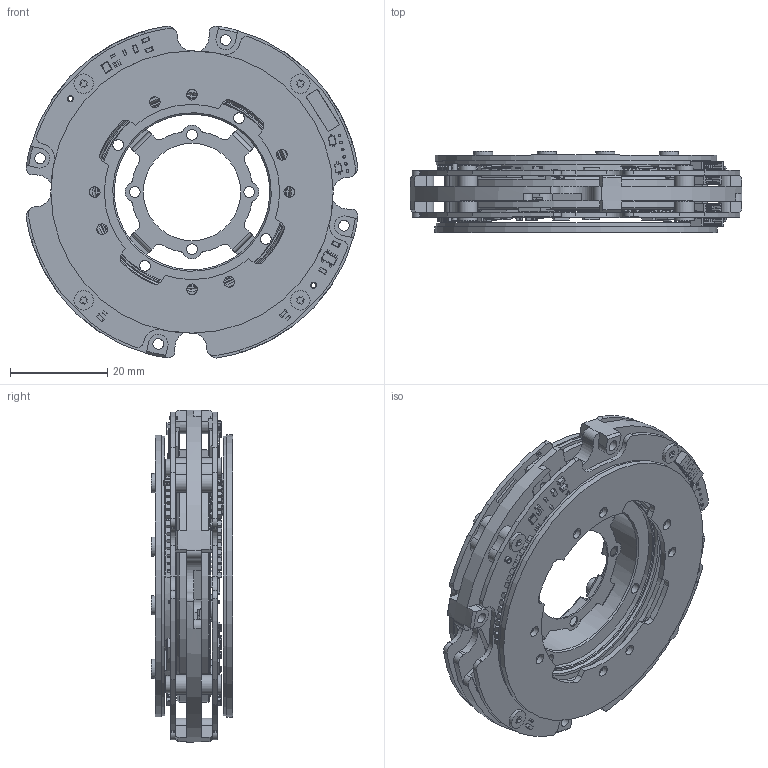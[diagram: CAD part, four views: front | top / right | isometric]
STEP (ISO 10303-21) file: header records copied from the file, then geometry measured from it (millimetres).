
FILE_DESCRIPTION(/* description */ (''),/* implementation_level */ '2;1');
FILE_NAME(/* name */ 'EAS-043.stp',/* time_stamp */ '2025-01-14T16:38:23+08:00',/* author */ (''),/* organization */ (''),/* preprocessor_version */ 'ST-DEVELOPER v15',/* originating_system */ 'SIEMENS PLM Software NX 8.5',/* authorisation */ '');
FILE_SCHEMA (('AUTOMOTIVE_DESIGN { 1 0 10303 214 3 1 1 1 }'));
Products named in the file (1): LeiX2B0495AE0m2y
Bounding box: 68.24 x 16.7 x 68.24 mm (x, y, z)
Volume: 23908.9 mm3; surface area: 38669.6 mm2
Topology: 587 solids, 603 shells, 9804 faces, 24265 edges, 15342 vertices
Faces by surface type: plane 7092, cylinder 2128, sphere 456, cone 76, torus 44, bspline 8
Full cylindrical faces by diameter (mm): 0.55 x12, 1 x6, 1.6 x16, 2 x12, 2.2 x40, 2.5 x8, 2.6 x8, 3.2 x4, 3.5 x4, 3.8 x4, 4 x12, 20 x1, 32 x1, 38.5 x1, 40 x2, 42 x2, 43 x2, 43.8 x2, 45.5 x2, 48 x3, 50 x2, 52 x2, 57.5 x2, 58 x2
Entity records: 298029 total; most frequent: CARTESIAN_POINT 59930, DIRECTION 47602, ORIENTED_EDGE 47164, EDGE_CURVE 23582, LINE 19036, VECTOR 19036, VERTEX_POINT 15258, AXIS2_PLACEMENT_3D 14283
